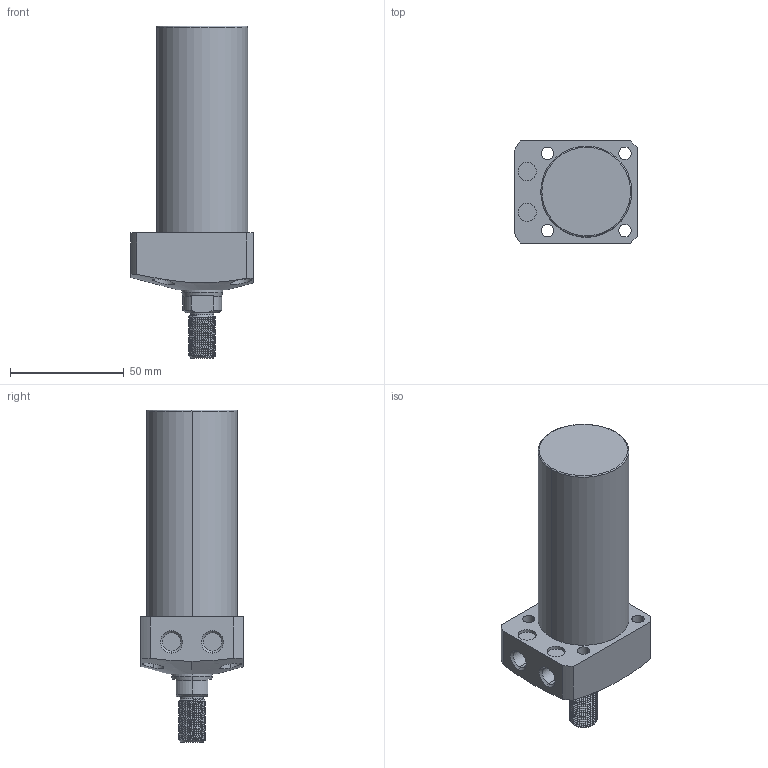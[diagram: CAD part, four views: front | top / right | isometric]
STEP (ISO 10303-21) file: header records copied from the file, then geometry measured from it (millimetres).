
FILE_DESCRIPTION (( 'STEP AP203' ), '1' );
FILE_NAME ('CLL-040CT-065.STEP', '2020-01-08T09:05:23', ( '' ), ( '' ), 'SwSTEP 2.0', 'SolidWorks 2015', '' );
FILE_SCHEMA (( 'CONFIG_CONTROL_DESIGN' ));
Length unit declared in the file: millimetre
Products named in the file (1): CLL-040CT-065
Bounding box: 54 x 45 x 146 mm (x, y, z)
Volume: 168034.4 mm3; surface area: 24293.6 mm2
Topology: 1 solids, 1 shells, 114 faces, 290 edges, 189 vertices
Faces by surface type: cylinder 71, plane 23, cone 16, torus 2, bspline 2
Entity records: 5834 total; most frequent: CARTESIAN_POINT 3185, ORIENTED_EDGE 580, DIRECTION 498, EDGE_CURVE 290, AXIS2_PLACEMENT_3D 198, VERTEX_POINT 189, EDGE_LOOP 133, ADVANCED_FACE 114
